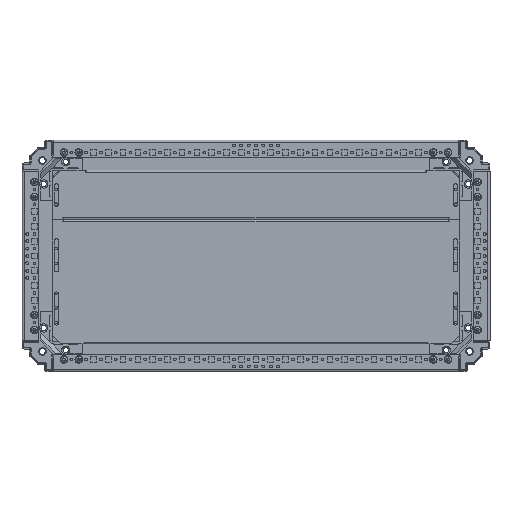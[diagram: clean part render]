
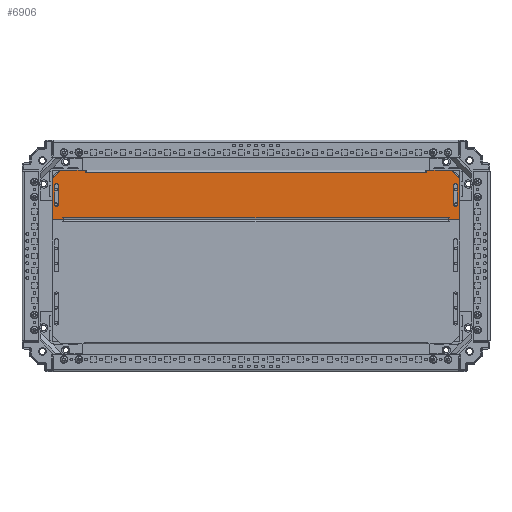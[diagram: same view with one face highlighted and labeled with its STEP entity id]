
A CAD part, top view. The second image highlights one B-rep face of the part: STEP entity #6906.
In plain terms, the highlighted planar face has unit normal (0, 0, 1).
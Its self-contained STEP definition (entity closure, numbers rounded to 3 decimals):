
#6906=ADVANCED_FACE('',(#18504,#18506,#18508),#18510,.F.);
#18504=FACE_BOUND('',#18505,.T.);
#18505=EDGE_LOOP('',(#32005,#32006,#32007,#32008,#32009,#32010,#32011,#32012,#32013,
#32014,#32015,#32016,#32017,#32018,#32019,#32020,#32021,#32022));
#18506=FACE_BOUND('',#18507,.T.);
#18507=EDGE_LOOP('',(#32023,#32024,#32025,#32026));
#18508=FACE_BOUND('',#18509,.T.);
#18509=EDGE_LOOP('',(#32027,#32028,#32029,#32030));
#18510=PLANE('',#18511);
#18511=AXIS2_PLACEMENT_3D('',#18512,#18513,#18514);
#18512=CARTESIAN_POINT('',(0.,103.15,17.5));
#18513=DIRECTION('',(0.,0.,-1.));
#18514=DIRECTION('',(-1.,0.,0.));
#32005=ORIENTED_EDGE('',*,*,#40280,.T.);
#32006=ORIENTED_EDGE('',*,*,#40281,.T.);
#32007=ORIENTED_EDGE('',*,*,#40250,.T.);
#32008=ORIENTED_EDGE('',*,*,#40282,.T.);
#32009=ORIENTED_EDGE('',*,*,#40283,.T.);
#32010=ORIENTED_EDGE('',*,*,#40284,.T.);
#32011=ORIENTED_EDGE('',*,*,#40285,.T.);
#32012=ORIENTED_EDGE('',*,*,#40232,.F.);
#32013=ORIENTED_EDGE('',*,*,#40286,.F.);
#32014=ORIENTED_EDGE('',*,*,#40287,.F.);
#32015=ORIENTED_EDGE('',*,*,#40256,.T.);
#32016=ORIENTED_EDGE('',*,*,#40288,.T.);
#32017=ORIENTED_EDGE('',*,*,#40289,.F.);
#32018=ORIENTED_EDGE('',*,*,#40290,.F.);
#32019=ORIENTED_EDGE('',*,*,#40238,.T.);
#32020=ORIENTED_EDGE('',*,*,#40291,.T.);
#32021=ORIENTED_EDGE('',*,*,#40292,.F.);
#32022=ORIENTED_EDGE('',*,*,#40293,.T.);
#32023=ORIENTED_EDGE('',*,*,#40294,.F.);
#32024=ORIENTED_EDGE('',*,*,#40295,.F.);
#32025=ORIENTED_EDGE('',*,*,#40296,.F.);
#32026=ORIENTED_EDGE('',*,*,#40297,.F.);
#32027=ORIENTED_EDGE('',*,*,#40298,.F.);
#32028=ORIENTED_EDGE('',*,*,#40299,.F.);
#32029=ORIENTED_EDGE('',*,*,#40300,.F.);
#32030=ORIENTED_EDGE('',*,*,#40301,.F.);
#40232=EDGE_CURVE('',#47368,#47370,#47371,.T.);
#40238=EDGE_CURVE('',#47376,#47380,#47382,.T.);
#40250=EDGE_CURVE('',#47404,#47405,#47406,.T.);
#40256=EDGE_CURVE('',#47417,#47415,#47418,.T.);
#40280=EDGE_CURVE('',#47459,#47460,#47461,.T.);
#40281=EDGE_CURVE('',#47460,#47404,#47462,.T.);
#40282=EDGE_CURVE('',#47405,#47463,#47464,.T.);
#40283=EDGE_CURVE('',#47463,#47465,#47466,.T.);
#40284=EDGE_CURVE('',#47465,#47384,#47467,.T.);
#40285=EDGE_CURVE('',#47384,#47370,#47468,.T.);
#40286=EDGE_CURVE('',#47469,#47368,#47470,.T.);
#40287=EDGE_CURVE('',#47417,#47469,#47471,.T.);
#40288=EDGE_CURVE('',#47415,#47472,#47473,.T.);
#40289=EDGE_CURVE('',#47474,#47472,#47475,.T.);
#40290=EDGE_CURVE('',#47376,#47474,#47476,.T.);
#40291=EDGE_CURVE('',#47380,#47477,#47478,.T.);
#40292=EDGE_CURVE('',#47479,#47477,#47480,.T.);
#40293=EDGE_CURVE('',#47479,#47459,#47481,.T.);
#40294=EDGE_CURVE('',#47482,#47483,#47484,.T.);
#40295=EDGE_CURVE('',#47485,#47482,#47486,.T.);
#40296=EDGE_CURVE('',#47487,#47485,#47488,.T.);
#40297=EDGE_CURVE('',#47483,#47487,#47489,.T.);
#40298=EDGE_CURVE('',#47490,#47491,#47492,.T.);
#40299=EDGE_CURVE('',#47493,#47490,#47494,.T.);
#40300=EDGE_CURVE('',#47495,#47493,#47496,.T.);
#40301=EDGE_CURVE('',#47491,#47495,#47497,.T.);
#47368=VERTEX_POINT('',#69256);
#47370=VERTEX_POINT('',#69260);
#47371=LINE('',#69261,#69262);
#47376=VERTEX_POINT('',#69272);
#47380=VERTEX_POINT('',#69280);
#47382=LINE('',#69284,#69285);
#47384=VERTEX_POINT('',#69288);
#47404=VERTEX_POINT('',#69334);
#47405=VERTEX_POINT('',#69335);
#47406=LINE('',#69336,#69337);
#47415=VERTEX_POINT('',#69355);
#47417=VERTEX_POINT('',#69359);
#47418=LINE('',#69360,#69361);
#47459=VERTEX_POINT('',#69453);
#47460=VERTEX_POINT('',#69454);
#47461=LINE('',#69455,#69456);
#47462=LINE('',#69458,#69459);
#47463=VERTEX_POINT('',#69461);
#47464=LINE('',#69462,#69463);
#47465=VERTEX_POINT('',#69465);
#47466=LINE('',#69466,#69467);
#47467=LINE('',#69469,#69470);
#47468=LINE('',#69472,#69473);
#47469=VERTEX_POINT('',#69475);
#47470=LINE('',#69476,#69477);
#47471=LINE('',#69479,#69480);
#47472=VERTEX_POINT('',#69482);
#47473=LINE('',#69483,#69484);
#47474=VERTEX_POINT('',#69486);
#47475=LINE('',#69487,#69488);
#47476=LINE('',#69490,#69491);
#47477=VERTEX_POINT('',#69493);
#47478=LINE('',#69494,#69495);
#47479=VERTEX_POINT('',#69497);
#47480=LINE('',#69498,#69499);
#47481=LINE('',#69501,#69502);
#47482=VERTEX_POINT('',#69504);
#47483=VERTEX_POINT('',#69505);
#47484=LINE('',#69506,#69507);
#47485=VERTEX_POINT('',#69509);
#47486=CIRCLE('',#69510,3.5);
#47487=VERTEX_POINT('',#69514);
#47488=LINE('',#69515,#69516);
#47489=CIRCLE('',#69518,3.5);
#47490=VERTEX_POINT('',#69522);
#47491=VERTEX_POINT('',#69523);
#47492=LINE('',#69524,#69525);
#47493=VERTEX_POINT('',#69527);
#47494=CIRCLE('',#69528,3.5);
#47495=VERTEX_POINT('',#69532);
#47496=LINE('',#69533,#69534);
#47497=CIRCLE('',#69536,3.5);
#69256=CARTESIAN_POINT('',(327.,64.45,17.5));
#69260=CARTESIAN_POINT('',(325.,64.45,17.5));
#69261=CARTESIAN_POINT('',(327.,64.45,17.5));
#69262=VECTOR('',#69263,1.);
#69263=DIRECTION('',(-1.,0.,0.));
#69272=CARTESIAN_POINT('',(289.,141.85,17.5));
#69280=CARTESIAN_POINT('',(287.,141.85,17.5));
#69284=CARTESIAN_POINT('',(289.,141.85,17.5));
#69285=VECTOR('',#69286,1.);
#69286=DIRECTION('',(-1.,0.,0.));
#69288=CARTESIAN_POINT('',(-325.,64.45,17.5));
#69334=CARTESIAN_POINT('',(-345.,131.01,17.5));
#69335=CARTESIAN_POINT('',(-345.,61.15,17.5));
#69336=CARTESIAN_POINT('',(-345.,131.01,17.5));
#69337=VECTOR('',#69338,1.);
#69338=DIRECTION('',(0.,-1.,0.));
#69355=CARTESIAN_POINT('',(345.,131.01,17.5));
#69359=CARTESIAN_POINT('',(345.,61.15,17.5));
#69360=CARTESIAN_POINT('',(345.,61.15,17.5));
#69361=VECTOR('',#69362,1.);
#69362=DIRECTION('',(0.,1.,0.));
#69453=CARTESIAN_POINT('',(-289.,145.15,17.5));
#69454=CARTESIAN_POINT('',(-330.86,145.15,17.5));
#69455=CARTESIAN_POINT('',(-289.,145.15,17.5));
#69456=VECTOR('',#69457,1.);
#69457=DIRECTION('',(-1.,0.,0.));
#69458=CARTESIAN_POINT('',(-330.86,145.15,17.5));
#69459=VECTOR('',#69460,1.);
#69460=DIRECTION('',(-0.707,-0.707,0.));
#69461=CARTESIAN_POINT('',(-327.,61.15,17.5));
#69462=CARTESIAN_POINT('',(-345.,61.15,17.5));
#69463=VECTOR('',#69464,1.);
#69464=DIRECTION('',(1.,0.,0.));
#69465=CARTESIAN_POINT('',(-327.,64.45,17.5));
#69466=CARTESIAN_POINT('',(-327.,61.15,17.5));
#69467=VECTOR('',#69468,1.);
#69468=DIRECTION('',(0.,1.,0.));
#69469=CARTESIAN_POINT('',(-327.,64.45,17.5));
#69470=VECTOR('',#69471,1.);
#69471=DIRECTION('',(1.,0.,0.));
#69472=CARTESIAN_POINT('',(-325.,64.45,17.5));
#69473=VECTOR('',#69474,1.);
#69474=DIRECTION('',(1.,0.,0.));
#69475=CARTESIAN_POINT('',(327.,61.15,17.5));
#69476=CARTESIAN_POINT('',(327.,61.15,17.5));
#69477=VECTOR('',#69478,1.);
#69478=DIRECTION('',(0.,1.,0.));
#69479=CARTESIAN_POINT('',(345.,61.15,17.5));
#69480=VECTOR('',#69481,1.);
#69481=DIRECTION('',(-1.,0.,0.));
#69482=CARTESIAN_POINT('',(330.86,145.15,17.5));
#69483=CARTESIAN_POINT('',(345.,131.01,17.5));
#69484=VECTOR('',#69485,1.);
#69485=DIRECTION('',(-0.707,0.707,0.));
#69486=CARTESIAN_POINT('',(289.,145.15,17.5));
#69487=CARTESIAN_POINT('',(289.,145.15,17.5));
#69488=VECTOR('',#69489,1.);
#69489=DIRECTION('',(1.,0.,0.));
#69490=CARTESIAN_POINT('',(289.,141.85,17.5));
#69491=VECTOR('',#69492,1.);
#69492=DIRECTION('',(0.,1.,0.));
#69493=CARTESIAN_POINT('',(-287.,141.85,17.5));
#69494=CARTESIAN_POINT('',(287.,141.85,17.5));
#69495=VECTOR('',#69496,1.);
#69496=DIRECTION('',(-1.,0.,0.));
#69497=CARTESIAN_POINT('',(-289.,141.85,17.5));
#69498=CARTESIAN_POINT('',(-289.,141.85,17.5));
#69499=VECTOR('',#69500,1.);
#69500=DIRECTION('',(1.,0.,0.));
#69501=CARTESIAN_POINT('',(-289.,141.85,17.5));
#69502=VECTOR('',#69503,1.);
#69503=DIRECTION('',(0.,1.,0.));
#69504=CARTESIAN_POINT('',(-341.,118.65,17.5));
#69505=CARTESIAN_POINT('',(-341.,87.65,17.5));
#69506=CARTESIAN_POINT('',(-341.,118.65,17.5));
#69507=VECTOR('',#69508,1.);
#69508=DIRECTION('',(0.,-1.,0.));
#69509=CARTESIAN_POINT('',(-334.,118.65,17.5));
#69510=AXIS2_PLACEMENT_3D('',#69511,#69512,#69513);
#69511=CARTESIAN_POINT('',(-337.5,118.65,17.5));
#69512=DIRECTION('',(0.,0.,1.));
#69513=DIRECTION('',(1.,0.,0.));
#69514=CARTESIAN_POINT('',(-334.,87.65,17.5));
#69515=CARTESIAN_POINT('',(-334.,87.65,17.5));
#69516=VECTOR('',#69517,1.);
#69517=DIRECTION('',(0.,1.,0.));
#69518=AXIS2_PLACEMENT_3D('',#69519,#69520,#69521);
#69519=CARTESIAN_POINT('',(-337.5,87.65,17.5));
#69520=DIRECTION('',(0.,0.,1.));
#69521=DIRECTION('',(-1.,0.,0.));
#69522=CARTESIAN_POINT('',(334.,118.65,17.5));
#69523=CARTESIAN_POINT('',(334.,87.65,17.5));
#69524=CARTESIAN_POINT('',(334.,118.65,17.5));
#69525=VECTOR('',#69526,1.);
#69526=DIRECTION('',(0.,-1.,0.));
#69527=CARTESIAN_POINT('',(341.,118.65,17.5));
#69528=AXIS2_PLACEMENT_3D('',#69529,#69530,#69531);
#69529=CARTESIAN_POINT('',(337.5,118.65,17.5));
#69530=DIRECTION('',(0.,0.,1.));
#69531=DIRECTION('',(1.,0.,0.));
#69532=CARTESIAN_POINT('',(341.,87.65,17.5));
#69533=CARTESIAN_POINT('',(341.,87.65,17.5));
#69534=VECTOR('',#69535,1.);
#69535=DIRECTION('',(0.,1.,0.));
#69536=AXIS2_PLACEMENT_3D('',#69537,#69538,#69539);
#69537=CARTESIAN_POINT('',(337.5,87.65,17.5));
#69538=DIRECTION('',(0.,0.,1.));
#69539=DIRECTION('',(-1.,0.,0.));
